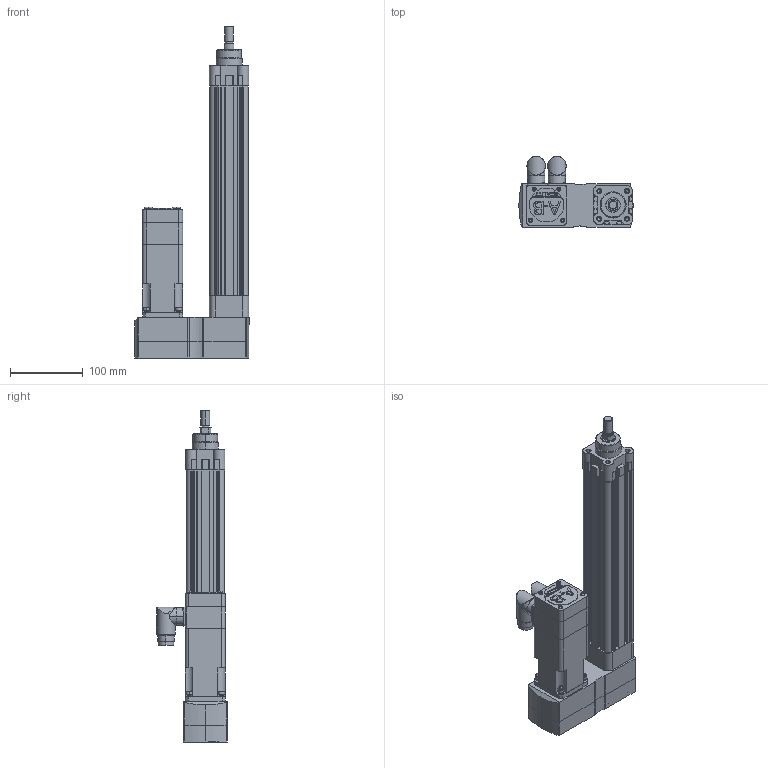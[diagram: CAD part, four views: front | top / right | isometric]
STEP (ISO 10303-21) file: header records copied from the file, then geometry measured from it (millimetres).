
FILE_DESCRIPTION (( 'STEP AP214' ), '1' );
FILE_NAME ('Rockwell Automation-MPAR-40DIA-5LEAD-MPAR-X2200C-V2D.STEP', '2011-11-08T21:29:31', ( 'SysAdmin' ), ( 'SolidWorks' ), 'SwSTEP 2.0', 'SolidWorks 2012', '' );
FILE_SCHEMA (( 'AUTOMOTIVE_DESIGN' ));
Length unit declared in the file: millimetre
Products named in the file (16): Rockwell Automation-MPAR-40DIA-5LEAD-MPAR-X2200C-V2D_MPAR-x2200x; Rockwell Automation-MPAR-40DIA-5LEAD-MPAR-X2200C-V2D; Rockwell Automation-MPAR-40DIA-5LEAD-MPAR-X2200C-V2D_MPL-x1530x-xJ42AA_MPL-15xx-Body_1530; Rockwell Automation-MPAR-40DIA-5LEAD-MPAR-X2200C-V2D_MPL-x1530x-xJ42AA_MPL-15xx-Shaft-Key_1530-SHAFT-KEYED; Rockwell Automation-MPAR-40DIA-5LEAD-MPAR-X2200C-V2D_MPL-x1530x-xJ42AA_MPL-15xx-Feedback Connector; Rockwell Automation-MPAR-40DIA-5LEAD-MPAR-X2200C-V2D_MPL-x1530x-xJ42AA_MPL-15xx-Power Connector; Rockwell Automation-MPAR-40DIA-5LEAD-MPAR-X2200C-V2D_627501_PRT0001; Rockwell Automation-MPAR-40DIA-5LEAD-MPAR-X2200C-V2D_MPL-x1530F-V-X207_MPL-x1530x-xJ42AA; Rockwell Automation-MPAR-40DIA-5LEAD-MPAR-X2200C-V2D_627501_200048_3; Rockwell Automation-MPAR-40DIA-5LEAD-MPAR-X2200C-V2D_627501_1210200; Rockwell Automation-MPAR-40DIA-5LEAD-MPAR-X2200C-V2D_627501_1210166; Rockwell Automation-MPAR-40DIA-5LEAD-MPAR-X2200C-V2D_627501_1210438_ST_ASM; Rockwell Automation-MPAR-40DIA-5LEAD-MPAR-X2200C-V2D_1-543132; Rockwell Automation-MPAR-40DIA-5LEAD-MPAR-X2200C-V2D_627501; Rockwell Automation-MPAR-40DIA-5LEAD-MPAR-X2200C-V2D_2-543132; Rockwell Automation-MPAR-40DIA-5LEAD-MPAR-X2200C-V2D_627501_200671_3
Assembly tree (25 placements, depth 4):
  Rockwell Automation-MPAR-40DIA-5LEAD-MPAR-X2200C-V2D
    Rockwell Automation-MPAR-40DIA-5LEAD-MPAR-X2200C-V2D_MPL-x1530F-V-X207_MPL-x1530x-xJ42AA
      Rockwell Automation-MPAR-40DIA-5LEAD-MPAR-X2200C-V2D_MPL-x1530x-xJ42AA_MPL-15xx-Body_1530
      Rockwell Automation-MPAR-40DIA-5LEAD-MPAR-X2200C-V2D_MPL-x1530x-xJ42AA_MPL-15xx-Shaft-Key_1530-SHAFT-KEYED
      Rockwell Automation-MPAR-40DIA-5LEAD-MPAR-X2200C-V2D_MPL-x1530x-xJ42AA_MPL-15xx-Feedback Connector
      Rockwell Automation-MPAR-40DIA-5LEAD-MPAR-X2200C-V2D_MPL-x1530x-xJ42AA_MPL-15xx-Power Connector
    Rockwell Automation-MPAR-40DIA-5LEAD-MPAR-X2200C-V2D_627501
      Rockwell Automation-MPAR-40DIA-5LEAD-MPAR-X2200C-V2D_627501_1210438_ST_ASM
        Rockwell Automation-MPAR-40DIA-5LEAD-MPAR-X2200C-V2D_627501_PRT0001  x4
        Rockwell Automation-MPAR-40DIA-5LEAD-MPAR-X2200C-V2D_627501_200671_3  x4
        Rockwell Automation-MPAR-40DIA-5LEAD-MPAR-X2200C-V2D_627501_200048_3  x5
        Rockwell Automation-MPAR-40DIA-5LEAD-MPAR-X2200C-V2D_627501_1210200
        Rockwell Automation-MPAR-40DIA-5LEAD-MPAR-X2200C-V2D_627501_1210166
    Rockwell Automation-MPAR-40DIA-5LEAD-MPAR-X2200C-V2D_MPAR-x2200x
      Rockwell Automation-MPAR-40DIA-5LEAD-MPAR-X2200C-V2D_1-543132
      Rockwell Automation-MPAR-40DIA-5LEAD-MPAR-X2200C-V2D_2-543132
Bounding box: 157 x 96.6 x 456.5 mm (x, y, z)
Volume: 1401354.6 mm3; surface area: 345213 mm2
Topology: 25 solids, 25 shells, 1619 faces, 3966 edges, 2514 vertices
Faces by surface type: plane 641, cylinder 564, cone 252, bspline 114, torus 48
Entity records: 46033 total; most frequent: CARTESIAN_POINT 12838, DIRECTION 6864, ORIENTED_EDGE 6548, EDGE_CURVE 3274, AXIS2_PLACEMENT_3D 2580, VERTEX_POINT 2094, LINE 1704, VECTOR 1704
